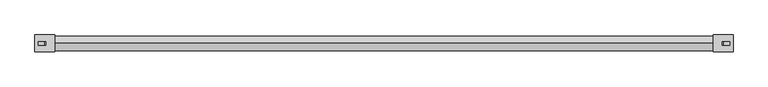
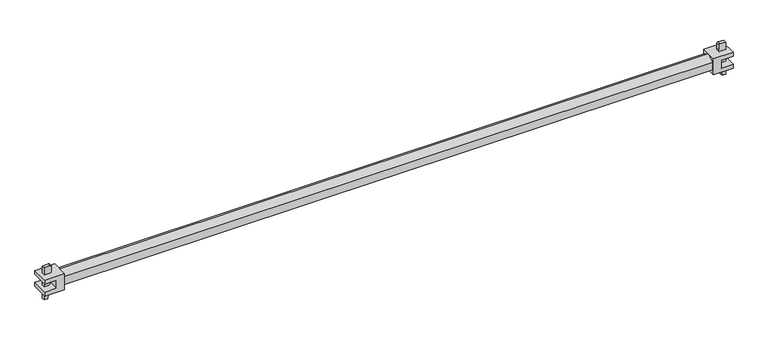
"""IFC4 building model written with IfcOpenShell, lengths in millimetres: proxy geometry, AK_アルバトロスＡＫ布材L=1800_軽 : AK_アルバトロスＡＫ布材L=1800_軽."""

from ifc_helpers import new_model, si_unit, point, frame, frame_2d, origin, place, context, project, spatial, polyline, circle_curve, trimmed, segment, composite_curve, outline, extrude, source, transform, mapped, element, save


def generic_models_099d6492(model_context):
    return source(origin(), model_context, "Body", "SweptSolid", [
        extrude(outline(polyline([(-10.75, 21.0591948), (-21.5, 21.0591948), (-21.5, 71.4999948), (21.5, 71.4999948), (21.5, 21.0591948), (10.75, 21.0591948), (10.75, 51.2999948), (-10.75, 51.2999948), (-10.75, 21.0591948)])), frame((0.0, -21.5, 0.0), z_axis=(0.0, 1.0, 0.0), x_axis=(0.0, 0.0, 1.0)), (0.0, 0.0, 1.0), 43.0),
        extrude(outline(composite_curve([segment(trimmed(circle_curve(frame_2d((39.0692, 44.7999948)), 3.0), [point((39.0692, 47.7999948))], [point((42.0590201, 44.5530624))], False, "CARTESIAN"), True, "CONTINUOUS"), segment(polyline([(42.0590201, 44.5530624), (40.7682926, 29.7999948), (-45.68165, 29.7999948), (-45.68165, 38.5388196), (27.3200065, 47.7999948), (39.0692, 47.7999948)]), True, "CONTINUOUS")], self_intersect=False)), frame((0.0, -4.0, 0.0), z_axis=(0.0, 1.0, 0.0), x_axis=(0.0, 0.0, 1.0)), (0.0, 0.0, 1.0), 8.0),
        extrude(outline(polyline([(-10.75, 1778.9408), (-10.75, 1748.7), (10.75, 1748.7), (10.75, 1778.9408), (21.5, 1778.9408), (21.5, 1728.5), (-21.5, 1728.5), (-21.5, 1778.9408), (-10.75, 1778.9408)])), frame((0.0, -21.5, 0.0), z_axis=(0.0, 1.0, 0.0), x_axis=(0.0, 0.0, 1.0)), (0.0, 0.0, 1.0), 43.0),
        extrude(outline(composite_curve([segment(polyline([(39.0692, 1752.2), (27.3200065, 1752.2), (-45.68165, 1761.4611752), (-45.68165, 1770.2), (40.7682926, 1770.2), (42.0590201, 1755.4469324)]), True, "CONTINUOUS"), segment(trimmed(circle_curve(frame_2d((39.0692, 1755.2)), 3.0), [point((42.0590201, 1755.4469324))], [point((39.0692, 1752.2))], False, "CARTESIAN"), True, "CONTINUOUS")], self_intersect=False)), frame((0.0, -4.0, 0.0), z_axis=(0.0, 1.0, 0.0), x_axis=(0.0, 0.0, 1.0)), (0.0, 0.0, 1.0), 8.0),
        extrude(outline(polyline([(-18.5329436, 10.7), (0.0, 21.4), (18.5329436, 10.7), (18.5329436, -10.7), (0.0, -21.4), (-18.5329436, -10.7), (-18.5329436, 10.7)])), frame((71.4999948, 0.0, 0.0), z_axis=(1.0, 0.0, 0.0), x_axis=(0.0, 1.0, 0.0)), (0.0, 0.0, 1.0), 1657.0000052),
    ])


if __name__ == "__main__":
    model = new_model("IFC4")
    model_context = context("Model", 3, world=origin())
    ifc_project = project(units=[si_unit("LENGTHUNIT", "METRE", prefix="MILLI")], contexts=[model_context])
    site = spatial("IfcSite", under=ifc_project)
    building = spatial("IfcBuilding", under=site)
    placement = place(None, origin())
    generic_models_shape = generic_models_099d6492(model_context)
    element("IfcBuildingElementProxy", 1, Name="AK_アルバトロスＡＫ布材L=1800_軽 : AK_アルバトロスＡＫ布材L=1800_軽", ObjectType="AK_アルバトロスＡＫ布材L=1800_軽 : AK_アルバトロスＡＫ布材L=1800_軽", at=placement, inside=building, context=model_context, shape_type="MappedRepresentation", body=[
        mapped(generic_models_shape, transform((0.0, 0.0, 0.0), x_axis=(1.0, 0.0, 0.0), y_axis=(0.0, 1.0, 0.0), z_axis=(0.0, 0.0, 1.0))),
    ])
    save(model, "model.ifc")
